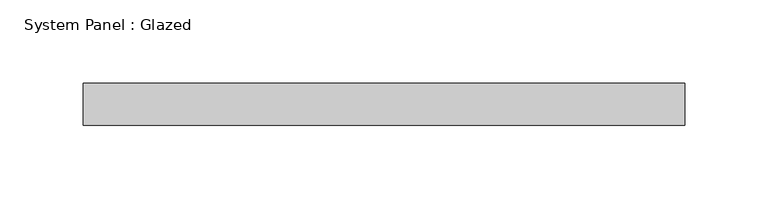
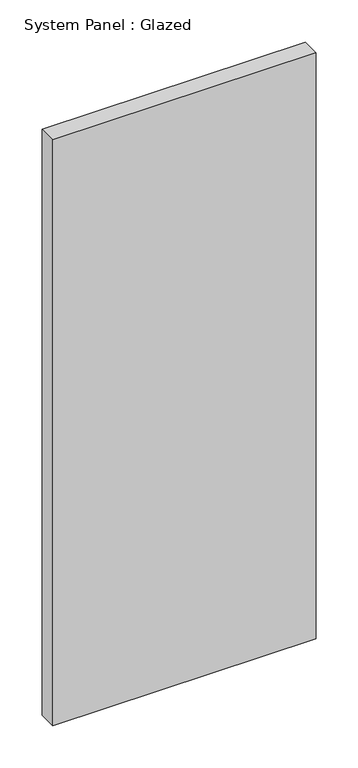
"""IFC4 building model written with IfcOpenShell, lengths in millimetres: plate geometry, System Panel : Glazed."""

from ifc_helpers import new_model, si_unit, origin, origin_with_axes, place, context, project, spatial, polyline, outline, extrude, source, transform, mapped, element, save


def system_panel_glazed_5cc7900c(model_context):
    return source(origin(), model_context, "Body", "SweptSolid", [
        extrude(outline(polyline([(180.975, 19.05), (-180.975, 19.05), (-180.975, 44.45), (180.975, 44.45), (180.975, 19.05)])), origin_with_axes(), (0.0, 0.0, 1.0), 850.9),
    ])


if __name__ == "__main__":
    model = new_model("IFC4")
    model_context = context("Model", 3, world=origin())
    ifc_project = project(units=[si_unit("LENGTHUNIT", "METRE", prefix="MILLI")], contexts=[model_context])
    site = spatial("IfcSite", under=ifc_project)
    building = spatial("IfcBuilding", under=site)
    placement = place(None, origin())
    system_panel_glazed_shape = system_panel_glazed_5cc7900c(model_context)
    element("IfcPlate", 1, ObjectType="System Panel : Glazed", at=placement, inside=building, context=model_context, shape_type="MappedRepresentation", body=[
        mapped(system_panel_glazed_shape, transform((0.0, 0.0, 0.0), x_axis=(1.0, 0.0, 0.0), y_axis=(0.0, 1.0, 0.0), z_axis=(0.0, 0.0, 1.0))),
    ])
    save(model, "model.ifc")
